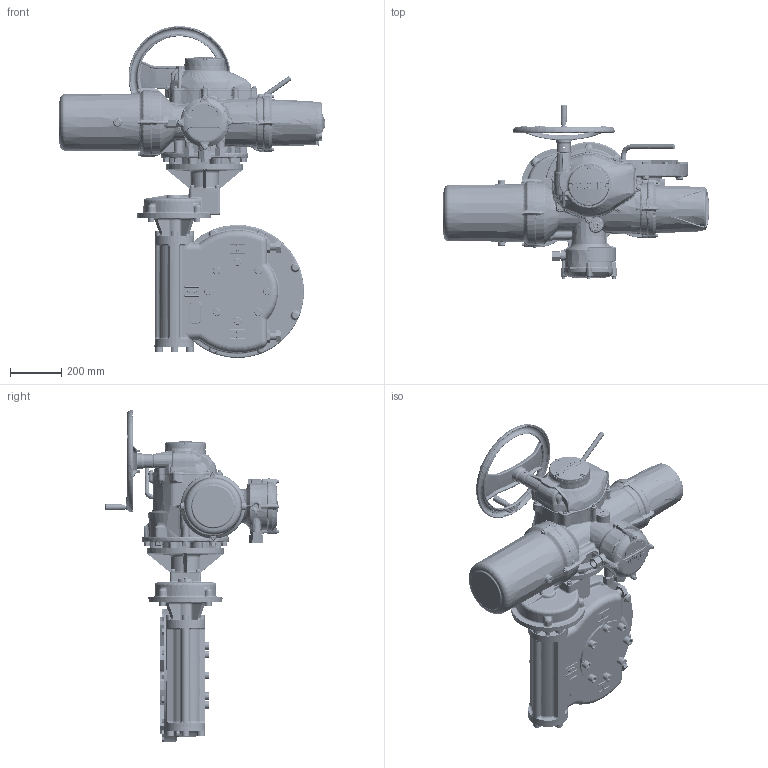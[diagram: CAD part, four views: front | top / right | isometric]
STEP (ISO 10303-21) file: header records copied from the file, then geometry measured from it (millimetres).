
FILE_DESCRIPTION( ( 'Unknown' ), '1' );
FILE_NAME( 'S:/Release/InstallationDrgs-IQmk3/Datasheets for Bishams release program/IQMK3 DATASHEETS/IQ5-91,IW7 - 11 & 13/II5-91-SHWIW8RLSTD-1.stp', 'Unknown', ( 'Unknown' ), ( 'Unknown' ), 'PSStep 16.0.42', 'Unknown', ' ' );
FILE_SCHEMA( ( 'AUTOMOTIVE_DESIGN { 1 0 10303 214 1 1 1 1 }' ) );
Length unit declared in the file: millimetre
Products named in the file (10): II0-55-std
Bounding box: 1041.8 x 680.05 x 1297.16 mm (x, y, z)
Volume: 1840482.3 mm3; surface area: 3168190.3 mm2
Topology: 85 solids, 87 shells, 8758 faces, 21410 edges, 12668 vertices
Faces by surface type: bspline 2831, plane 2418, cylinder 1363, torus 966, cone 753, sphere 260, extrusion 128, revolution 21, offset 18
Full cylindrical faces by diameter (mm): 1.152 x1, 3 x10, 3.5 x1, 6 x5, 6.45 x4, 6.47 x4, 6.5 x1, 6.647 x8, 7 x4, 7.6 x4, 8 x21, 8.1 x1, 8.2 x1, 8.3 x2, 8.376 x1, 8.5 x4, 9.7 x1, 10 x1, 12 x6, 12.1 x1, 13 x12, 13.25 x11, 13.548 x1, 13.55 x1, 13.835 x16, 16 x33, 16.5 x16, 16.75 x1, 17 x8, 18 x9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
Entity records: 811272 total; most frequent: CARTESIAN_POINT 563654, ORIENTED_EDGE 40084, DIRECTION 31920, EDGE_CURVE 20042, AXIS2_PLACEMENT_3D 13383, VERTEX_POINT 12293, EDGE_LOOP 9713, FACE_OUTER_BOUND 9145
